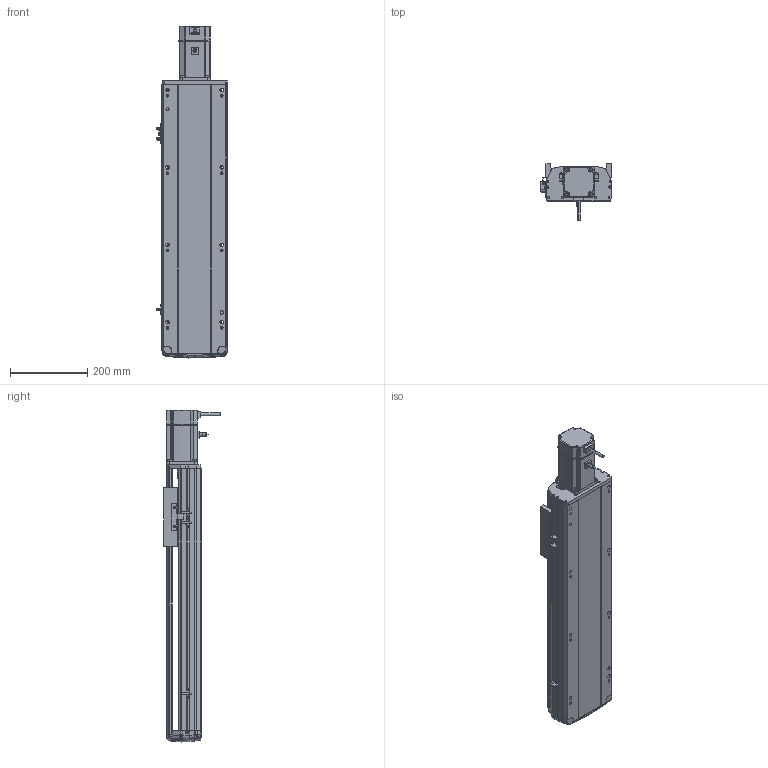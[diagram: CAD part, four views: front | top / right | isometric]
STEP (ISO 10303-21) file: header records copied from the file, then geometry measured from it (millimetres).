
FILE_DESCRIPTION (( 'STEP AP214' ), '1' );
FILE_NAME ('RTH17-XX-450-E-M75-C4.STEP', '2025-10-24T09:37:27', ( '' ), ( '' ), 'SwSTEP 2.0', 'SolidWorks 2018', '' );
FILE_SCHEMA (( 'AUTOMOTIVE_DESIGN' ));
Length unit declared in the file: millimetre
Products named in the file (9): N_RTH17-E-004丝杆螺母连接座^RTH17-XX-XX-E-M75-C4（方程式）; N_M75^RTH17-XX-XX-E-M75-C4（方程式）; N_RTH17-E-011底座^RTH17-XX-XX-E-M75-C4（方程式）; N_RTH17-E-007上盖^RTH17-XX-XX-E-M75-C4（方程式）; N_RTH-L-012 感应片(外置)^RTH17-XX-XX-E-M75-C4（方程式）; N_RTH17-E-008-P75电机板^RTH17-XX-XX-E-M75-C4（方程式）; RTH17-XX-450-E-M75-C4; N_OMRON EE-SX672 換覜ん^RTH17-XX-XX-E-M75-C4ㄗ源最宒ㄘ; N_RTH17-GY-001P^RTH17-XX-XX-E-M75-C4（方程式）
Assembly tree (10 placements, depth 2):
  RTH17-XX-450-E-M75-C4
    N_RTH17-E-011底座^RTH17-XX-XX-E-M75-C4（方程式）
    N_RTH17-E-007上盖^RTH17-XX-XX-E-M75-C4（方程式）
    N_M75^RTH17-XX-XX-E-M75-C4（方程式）
    N_RTH17-E-008-P75电机板^RTH17-XX-XX-E-M75-C4（方程式）
    N_OMRON EE-SX672 換覜ん^RTH17-XX-XX-E-M75-C4ㄗ源最宒ㄘ  x3
    N_RTH-L-012 感应片(外置)^RTH17-XX-XX-E-M75-C4（方程式）
    N_RTH17-E-004丝杆螺母连接座^RTH17-XX-XX-E-M75-C4（方程式）
    N_RTH17-GY-001P^RTH17-XX-XX-E-M75-C4（方程式）
Bounding box: 183.5 x 145.7 x 858.19 mm (x, y, z)
Volume: 6445441.6 mm3; surface area: 858596.8 mm2
Topology: 9 solids, 11 shells, 1748 faces, 4821 edges, 3122 vertices
Faces by surface type: plane 820, cylinder 514, bspline 377, cone 28, torus 9
Entity records: 50998 total; most frequent: CARTESIAN_POINT 20155, ORIENTED_EDGE 6666, DIRECTION 5597, EDGE_CURVE 3337, VERTEX_POINT 2158, AXIS2_PLACEMENT_3D 1895, VECTOR 1807, LINE 1807
